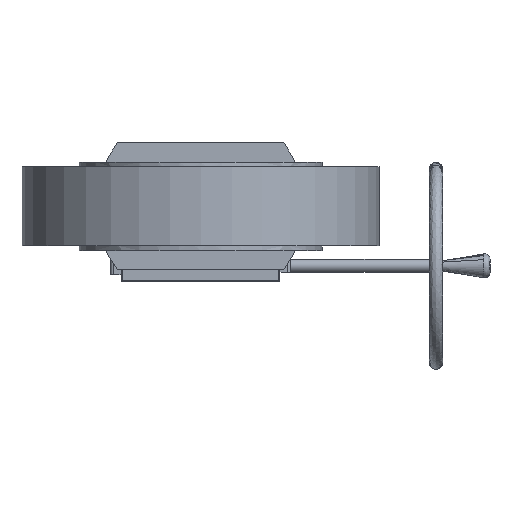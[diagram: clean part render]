
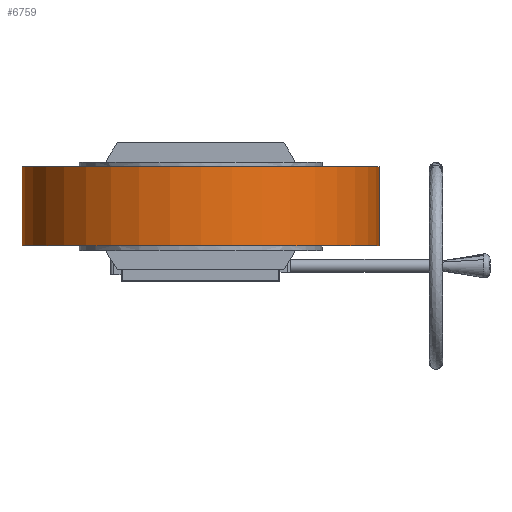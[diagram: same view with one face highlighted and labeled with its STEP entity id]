
A CAD part, front view. The second image highlights one B-rep face of the part: STEP entity #6759.
In plain terms, the highlighted cylindrical face has radius 171.45 mm (diameter 342.9 mm), a partial arc.
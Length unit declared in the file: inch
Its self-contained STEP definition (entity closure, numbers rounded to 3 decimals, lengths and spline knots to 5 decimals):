
#977 = LINE ( 'NONE', #1894, #13826 ) ;
#1130 = LINE ( 'NONE', #11518, #8990 ) ;
#1644 = EDGE_CURVE ( 'NONE', #4818, #2638, #977, .T. ) ;
#1894 = CARTESIAN_POINT ( 'NONE',  ( -6.75, 0., 1.495 ) ) ;
#2057 = VERTEX_POINT ( 'NONE', #6392 ) ;
#2638 = VERTEX_POINT ( 'NONE', #4879 ) ;
#2682 = DIRECTION ( 'NONE',  ( 1., 0., 0. ) ) ;
#2875 = EDGE_CURVE ( 'NONE', #2638, #2057, #6754, .T. ) ;
#3040 = CIRCLE ( 'NONE', #4478, 6.75 ) ;
#3408 = EDGE_CURVE ( 'NONE', #4818, #5509, #3040, .T. ) ;
#3446 = CARTESIAN_POINT ( 'NONE',  ( 6.75, 0., 1.495 ) ) ;
#3814 = DIRECTION ( 'NONE',  ( 0., 0., 1. ) ) ;
#3879 = ORIENTED_EDGE ( 'NONE', *, *, #2875, .T. ) ;
#4478 = AXIS2_PLACEMENT_3D ( 'NONE', #9791, #3814, #2682 ) ;
#4818 = VERTEX_POINT ( 'NONE', #14900 ) ;
#4863 = DIRECTION ( 'NONE',  ( 1., 0., 0. ) ) ;
#4879 = CARTESIAN_POINT ( 'NONE',  ( -6.75, 0., -1.495 ) ) ;
#5053 = CYLINDRICAL_SURFACE ( 'NONE', #12565, 6.75 ) ;
#5129 = CARTESIAN_POINT ( 'NONE',  ( 0., 0., 1.495 ) ) ;
#5148 = ORIENTED_EDGE ( 'NONE', *, *, #3408, .F. ) ;
#5253 = EDGE_CURVE ( 'NONE', #5509, #2057, #1130, .T. ) ;
#5509 = VERTEX_POINT ( 'NONE', #3446 ) ;
#5742 = DIRECTION ( 'NONE',  ( 0., 0., -1. ) ) ;
#6392 = CARTESIAN_POINT ( 'NONE',  ( 6.75, 0., -1.495 ) ) ;
#6754 = CIRCLE ( 'NONE', #10201, 6.75 ) ;
#6759 = ADVANCED_FACE ( 'NONE', ( #8624 ), #5053, .T. ) ;
#8319 = ORIENTED_EDGE ( 'NONE', *, *, #5253, .F. ) ;
#8430 = CARTESIAN_POINT ( 'NONE',  ( 0., 0., -1.495 ) ) ;
#8624 = FACE_OUTER_BOUND ( 'NONE', #10281, .T. ) ;
#8883 = DIRECTION ( 'NONE',  ( 0., 0., -1. ) ) ;
#8990 = VECTOR ( 'NONE', #5742, 39.37008 ) ;
#9791 = CARTESIAN_POINT ( 'NONE',  ( 0., 0., 1.495 ) ) ;
#10201 = AXIS2_PLACEMENT_3D ( 'NONE', #8430, #10836, #4863 ) ;
#10281 = EDGE_LOOP ( 'NONE', ( #8319, #5148, #14438, #3879 ) ) ;
#10836 = DIRECTION ( 'NONE',  ( 0., 0., 1. ) ) ;
#11518 = CARTESIAN_POINT ( 'NONE',  ( 6.75, 0., 1.495 ) ) ;
#12565 = AXIS2_PLACEMENT_3D ( 'NONE', #5129, #13003, #14390 ) ;
#13003 = DIRECTION ( 'NONE',  ( 0., 0., -1. ) ) ;
#13826 = VECTOR ( 'NONE', #8883, 39.37008 ) ;
#14390 = DIRECTION ( 'NONE',  ( -1., 0., 0. ) ) ;
#14438 = ORIENTED_EDGE ( 'NONE', *, *, #1644, .T. ) ;
#14900 = CARTESIAN_POINT ( 'NONE',  ( -6.75, 0., 1.495 ) ) ;
